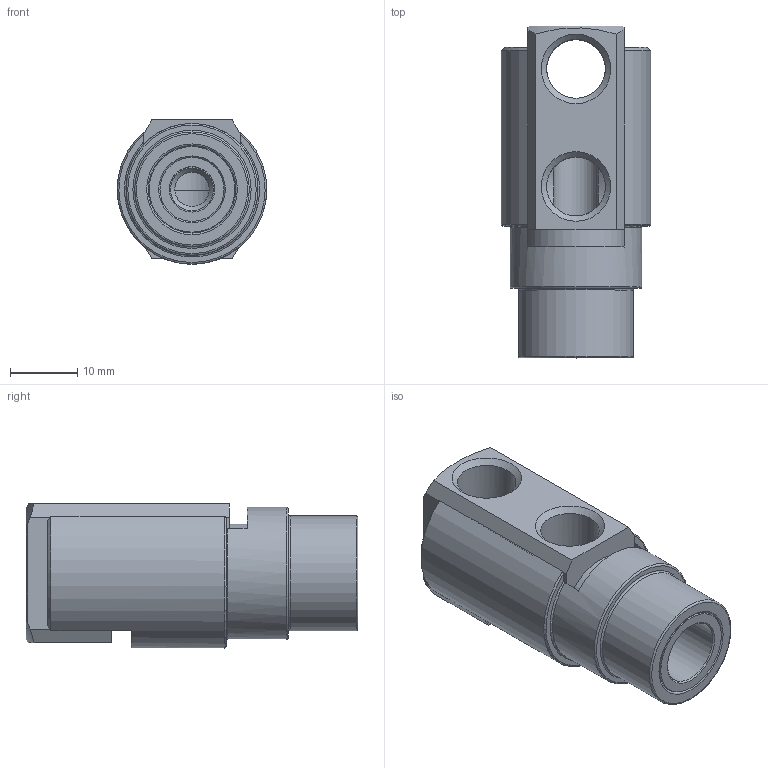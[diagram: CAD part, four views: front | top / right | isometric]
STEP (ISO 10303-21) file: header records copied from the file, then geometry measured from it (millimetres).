
FILE_DESCRIPTION(/* description */ (''),/* implementation_level */ '2;1');
FILE_NAME(/* name */ 'C:/Users/drich/Desktop/SC186H v2.step',/* time_stamp */ '2020-01-04T15:15:44-06:00',/* author */ (''),/* organization */ (''),/* preprocessor_version */ 'ST-DEVELOPER v18',/* originating_system */ 'Autodesk Translation Framework v8.12.0.6',/* authorisation */ '');
FILE_SCHEMA (('AUTOMOTIVE_DESIGN { 1 0 10303 214 3 1 1 }'));
Length unit declared in the file: inch
Products named in the file (3): SC186H; SC186H HEAD; SC186H Sleeve
Assembly tree (2 placements, depth 2):
  SC186H
    SC186H HEAD
    SC186H Sleeve
Bounding box: 22.2 x 49.2 x 21.41 mm (x, y, z)
Volume: 11962.6 mm3; surface area: 9120 mm2
Topology: 2 solids, 2 shells, 66 faces, 192 edges, 132 vertices
Faces by surface type: plane 31, cylinder 16, cone 13, torus 6
Full cylindrical faces by diameter (mm): 5.118 x1, 6.731 x1, 8.707 x3, 9.5 x1, 12.7 x1, 12.954 x1, 15.165 x1, 17.018 x1, 19.558 x1
Entity records: 2455 total; most frequent: CARTESIAN_POINT 592, ORIENTED_EDGE 384, DIRECTION 383, EDGE_CURVE 192, AXIS2_PLACEMENT_3D 155, VERTEX_POINT 132, CIRCLE 84, EDGE_LOOP 76
